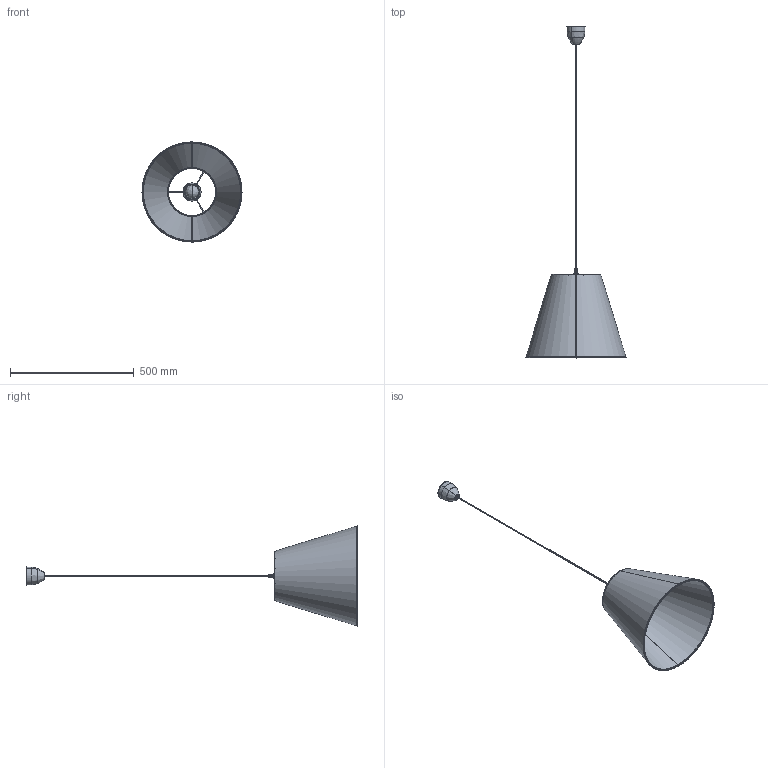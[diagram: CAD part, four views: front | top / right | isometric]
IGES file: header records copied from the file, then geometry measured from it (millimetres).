
Start section: SolidWorks IGES file using analytic representation for surfaces
Global section: file name: E:\3D lampy\Malawi\Malawi S\Malawi_6861,4702.IGS; native system: SolidWorks 2016; preprocessor: SolidWorks 2016; author: Asia; date: 170621.101344; units: millimetre
Bounding box: 404.88 x 1343.36 x 405.08 mm (x, y, z)
Surface area: 848279.5 mm2 (no closed solid volume)
Topology: 0 solids, 0 shells, 758 faces, 8472 edges, 8470 vertices
Faces by surface type: bspline 425, revolution 333
